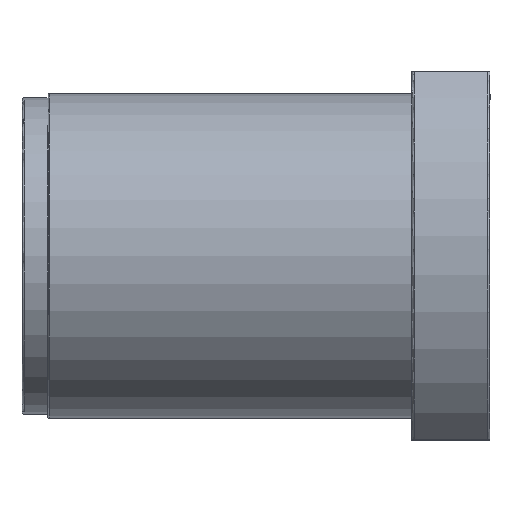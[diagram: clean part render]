
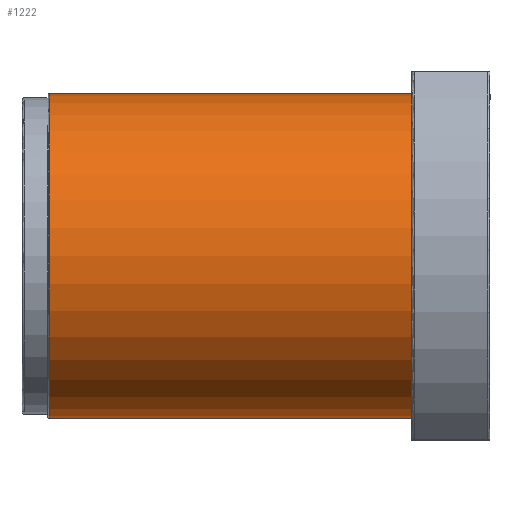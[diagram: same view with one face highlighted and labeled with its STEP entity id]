
A CAD part, top view. The second image highlights one B-rep face of the part: STEP entity #1222.
In plain terms, the highlighted cylindrical face has radius 37.5 mm (diameter 75 mm), a partial arc.
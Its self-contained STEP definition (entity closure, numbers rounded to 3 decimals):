
#27 = DIRECTION ( 'NONE',  ( 1., 0., 0. ) ) ;
#40 = DIRECTION ( 'NONE',  ( 0., 1., 0. ) ) ;
#75 = CARTESIAN_POINT ( 'NONE',  ( 18.175, 37.5, 0. ) ) ;
#92 = EDGE_LOOP ( 'NONE', ( #2581, #1998, #1373, #1162 ) ) ;
#96 = CIRCLE ( 'NONE', #1649, 37.5 ) ;
#408 = CIRCLE ( 'NONE', #1381, 37.5 ) ;
#423 = LINE ( 'NONE', #1225, #1293 ) ;
#521 = DIRECTION ( 'NONE',  ( -1., 0., 0. ) ) ;
#618 = DIRECTION ( 'NONE',  ( 1., 0., 0. ) ) ;
#678 = EDGE_CURVE ( 'NONE', #1003, #2411, #408, .T. ) ;
#695 = EDGE_CURVE ( 'NONE', #1485, #2300, #96, .T. ) ;
#709 = CARTESIAN_POINT ( 'NONE',  ( -65.525, 37.5, 0. ) ) ;
#810 = CARTESIAN_POINT ( 'NONE',  ( -65.525, 0., 0. ) ) ;
#821 = DIRECTION ( 'NONE',  ( 1., 0., 0. ) ) ;
#1003 = VERTEX_POINT ( 'NONE', #709 ) ;
#1162 = ORIENTED_EDGE ( 'NONE', *, *, #2157, .F. ) ;
#1207 = CYLINDRICAL_SURFACE ( 'NONE', #1287, 37.5 ) ;
#1222 = ADVANCED_FACE ( 'NONE', ( #1877 ), #1207, .T. ) ;
#1225 = CARTESIAN_POINT ( 'NONE',  ( -65.525, -37.5, 0. ) ) ;
#1287 = AXIS2_PLACEMENT_3D ( 'NONE', #810, #821, #2252 ) ;
#1293 = VECTOR ( 'NONE', #618, 1000. ) ;
#1315 = DIRECTION ( 'NONE',  ( 0., 1., 0. ) ) ;
#1346 = CARTESIAN_POINT ( 'NONE',  ( 18.175, 0., 0. ) ) ;
#1373 = ORIENTED_EDGE ( 'NONE', *, *, #695, .T. ) ;
#1381 = AXIS2_PLACEMENT_3D ( 'NONE', #1570, #27, #40 ) ;
#1485 = VERTEX_POINT ( 'NONE', #1800 ) ;
#1570 = CARTESIAN_POINT ( 'NONE',  ( -65.525, 0., 0. ) ) ;
#1649 = AXIS2_PLACEMENT_3D ( 'NONE', #1346, #521, #1315 ) ;
#1697 = CARTESIAN_POINT ( 'NONE',  ( -65.525, 37.5, 0. ) ) ;
#1800 = CARTESIAN_POINT ( 'NONE',  ( 18.175, -37.5, 0. ) ) ;
#1877 = FACE_OUTER_BOUND ( 'NONE', #92, .T. ) ;
#1998 = ORIENTED_EDGE ( 'NONE', *, *, #2024, .T. ) ;
#2015 = CARTESIAN_POINT ( 'NONE',  ( -65.525, -37.5, 0. ) ) ;
#2024 = EDGE_CURVE ( 'NONE', #2411, #1485, #423, .T. ) ;
#2157 = EDGE_CURVE ( 'NONE', #1003, #2300, #2503, .T. ) ;
#2252 = DIRECTION ( 'NONE',  ( 0., 1., 0. ) ) ;
#2300 = VERTEX_POINT ( 'NONE', #75 ) ;
#2411 = VERTEX_POINT ( 'NONE', #2015 ) ;
#2493 = VECTOR ( 'NONE', #2515, 1000. ) ;
#2503 = LINE ( 'NONE', #1697, #2493 ) ;
#2515 = DIRECTION ( 'NONE',  ( 1., 0., 0. ) ) ;
#2581 = ORIENTED_EDGE ( 'NONE', *, *, #678, .T. ) ;
